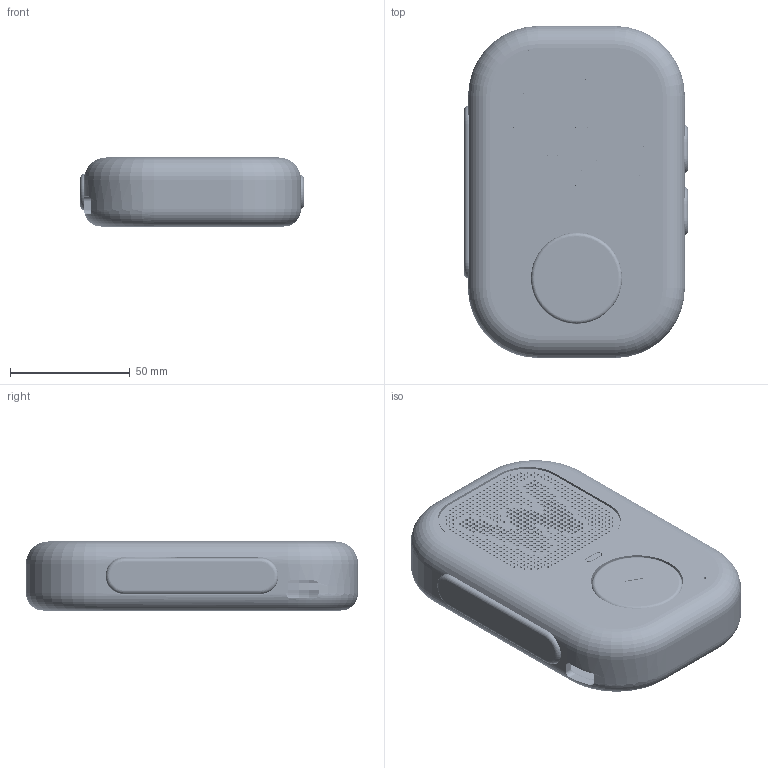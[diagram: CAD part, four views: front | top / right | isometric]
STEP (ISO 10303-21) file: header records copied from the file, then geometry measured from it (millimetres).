
FILE_DESCRIPTION(('Open CASCADE Model'),'2;1');
FILE_NAME('Open CASCADE Shape Model','2026-09-08T13:27:14',('Author'),( 'Open CASCADE'),'Open CASCADE STEP processor 7.7','Open CASCADE 7.7' ,'Unknown');
FILE_SCHEMA(('AUTOMOTIVE_DESIGN { 1 0 10303 214 1 1 1 1 }'));
Length unit declared in the file: millimetre
Products named in the file (48): 25_2_E1_FRONT_CONTROL_REVISION; 07_W_grille; 07_W_grille_part; 11_Speaker_cradle; 11_Speaker_cradle_part; 05_Volume_keys; 05_Volume_keys_part; 06_Status_lens; 06_Status_lens_part; 09_Grille_bond_frame; 09_Grille_bond_frame_part; 02_Soft_grips; 02_Soft_grips_part; 12_Rear_alignment_lip; 12_Rear_alignment_lip_part; 13_Microphone_seat; 13_Microphone_seat_part; 04_PTT_paddle; 04_PTT_paddle_part; 14_Play_glyph_inlay; 14_Play_glyph_inlay_part; 03_Play_key_38mm; 03_Play_key_38mm_part; 08_Acoustic_backing_REFERENCE; 08_Acoustic_backing_REFERENCE_part; 01a_Rigid_housing_front; 01a_Rigid_housing_front_part; 01b_Rigid_housing_rear; 01b_Rigid_housing_rear_part; FRONT_SWITCH_GUIDE_AND_MOUNT; FRONT_SWITCH_GUIDE_AND_MOUNT_part; FRONT_SWITCH_REACTION_PLATE; FRONT_SWITCH_REACTION_PLATE_part; FRONT_BACKPLATE_M2x5_-8.6_-5.5; FRONT_BACKPLATE_M2x5_-8.6_-5.5_part; FRONT_BACKPLATE_M2x5_-8.6_5.5; FRONT_BACKPLATE_M2x5_-8.6_5.5_part; FRONT_BACKPLATE_M2x5_8.6_-5.5; FRONT_BACKPLATE_M2x5_8.6_-5.5_part; FRONT_BACKPLATE_M2x5_8.6_5.5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
Assembly tree (47 placements, depth 4):
  25_2_E1_FRONT_CONTROL_REVISION
    25_2_E1_FRONT_CONTROL_REVISION
      07_W_grille
        07_W_grille_part
      11_Speaker_cradle
        11_Speaker_cradle_part
      05_Volume_keys
        05_Volume_keys_part
      06_Status_lens
        06_Status_lens_part
      09_Grille_bond_frame
        09_Grille_bond_frame_part
      02_Soft_grips
        02_Soft_grips_part
      12_Rear_alignment_lip
        12_Rear_alignment_lip_part
      13_Microphone_seat
        13_Microphone_seat_part
      04_PTT_paddle
        04_PTT_paddle_part
      14_Play_glyph_inlay
        14_Play_glyph_inlay_part
      03_Play_key_38mm
        03_Play_key_38mm_part
      08_Acoustic_backing_REFERENCE
        08_Acoustic_backing_REFERENCE_part
      01a_Rigid_housing_front
        01a_Rigid_housing_front_part
      01b_Rigid_housing_rear
        01b_Rigid_housing_rear_part
      FRONT_SWITCH_GUIDE_AND_MOUNT
        FRONT_SWITCH_GUIDE_AND_MOUNT_part
      FRONT_SWITCH_REACTION_PLATE
        FRONT_SWITCH_REACTION_PLATE_part
      FRONT_BACKPLATE_M2x5_-8.6_-5.5
        FRONT_BACKPLATE_M2x5_-8.6_-5.5_part
      FRONT_BACKPLATE_M2x5_-8.6_5.5
        FRONT_BACKPLATE_M2x5_-8.6_5.5_part
      FRONT_BACKPLATE_M2x5_8.6_-5.5
        FRONT_BACKPLATE_M2x5_8.6_-5.5_part
      FRONT_BACKPLATE_M2x5_8.6_5.5
        FRONT_BACKPLATE_M2x5_8.6_5.5_part
      FRONT_CARRIER_M2x4_-1
        FRONT_CARRIER_M2x4_-1_part
      FRONT_CARRIER_M2x4_1
        FRONT_CARRIER_M2x4_1_part
      REF_OMRON_B3F4000_ACTUAL
        REF_OMRON_B3F4000_ACTUAL_part
Bounding box: 93.2 x 138.4 x 28.8 mm (x, y, z)
Volume: 96644.2 mm3; surface area: 133206.4 mm2
Topology: 32 solids, 32 shells, 2985 faces, 6536 edges, 3649 vertices
Faces by surface type: plane 1984, cylinder 956, torus 45
Full cylindrical faces by diameter (mm): 0.9 x452, 1.1 x85, 1.2 x2, 1.25 x73, 1.4 x111, 1.7 x6, 1.96 x6, 2.2 x6, 3 x1, 3.8 x6, 4 x1, 4.4 x1, 5.4 x2, 7.6 x1, 38 x1, 38.6 x2, 40.5 x1, 40.6 x1, 41 x1, 43.2 x1
Entity records: 173409 total; most frequent: CARTESIAN_POINT 34931, DIRECTION 26538, LINE 15610, VECTOR 15610, ORIENTED_EDGE 13072, PCURVE 13072, DEFINITIONAL_REPRESENTATION 13072, EDGE_CURVE 6536
